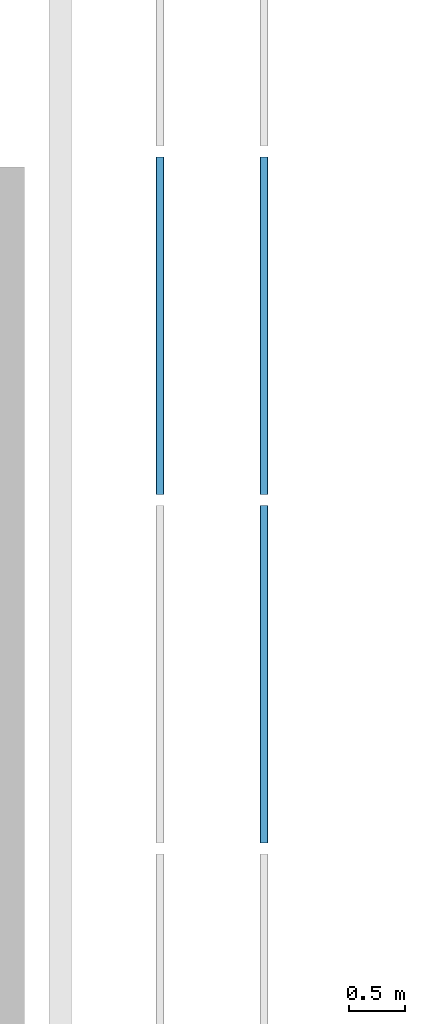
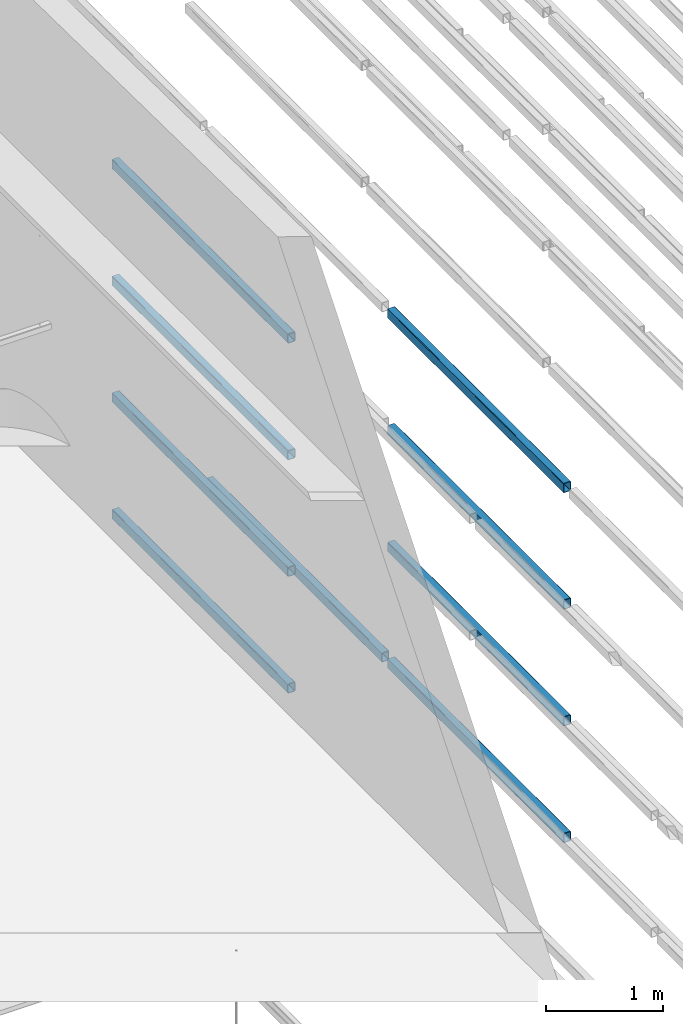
# One storey, part 13 of 290: 9 beams.
"""IFC2X3 building model written with IfcOpenShell, lengths in metres."""

from ifc_helpers import new_model, entity, si_unit, converted_unit, derived_unit, direction, frame, frame_2d, origin, place, context, subcontext, project, spatial, polyline, circle_curve, parameter, trimmed, segment, composite_curve, outline, extrude, material, type_object, element, save


model = new_model("IFC2X3")

# Units and contexts
model_context = context("Model", 3, precision=1e-05, world=origin(), true_north=direction((6.12303176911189e-17, 1.0)))
body_context = subcontext(model_context, "Body", "Model", "MODEL_VIEW")
ifc_project = project(units=[si_unit("LENGTHUNIT", "METRE"), si_unit("AREAUNIT", "SQUARE_METRE"), si_unit("VOLUMEUNIT", "CUBIC_METRE"), converted_unit("PLANEANGLEUNIT", "DEGREE", entity("IfcRatioMeasure", 0.0174532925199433), si_unit("PLANEANGLEUNIT", "RADIAN"), dimensions=[0, 0, 0, 0, 0, 0, 0]), si_unit("MASSUNIT", "GRAM", prefix="KILO"), derived_unit("MASSDENSITYUNIT", [(si_unit("MASSUNIT", "GRAM", prefix="KILO"), 1), (si_unit("LENGTHUNIT", "METRE"), -3)]), derived_unit("MOMENTOFINERTIAUNIT", [(si_unit("LENGTHUNIT", "METRE"), 4)]), si_unit("TIMEUNIT", "SECOND"), si_unit("FREQUENCYUNIT", "HERTZ"), si_unit("THERMODYNAMICTEMPERATUREUNIT", "DEGREE_CELSIUS"), derived_unit("THERMALTRANSMITTANCEUNIT", [(si_unit("MASSUNIT", "GRAM", prefix="KILO"), 1), (si_unit("THERMODYNAMICTEMPERATUREUNIT", "KELVIN"), -1), (si_unit("TIMEUNIT", "SECOND"), -3)]), derived_unit("VOLUMETRICFLOWRATEUNIT", [(si_unit("LENGTHUNIT", "METRE"), 3), (si_unit("TIMEUNIT", "SECOND"), -1)]), si_unit("ELECTRICCURRENTUNIT", "AMPERE"), si_unit("ELECTRICVOLTAGEUNIT", "VOLT"), si_unit("POWERUNIT", "WATT"), si_unit("FORCEUNIT", "NEWTON", prefix="KILO"), si_unit("ILLUMINANCEUNIT", "LUX"), si_unit("LUMINOUSFLUXUNIT", "LUMEN"), si_unit("LUMINOUSINTENSITYUNIT", "CANDELA"), derived_unit("USERDEFINED", [(si_unit("MASSUNIT", "GRAM", prefix="KILO"), -1), (si_unit("LENGTHUNIT", "METRE"), -2), (si_unit("TIMEUNIT", "SECOND"), 3), (si_unit("LUMINOUSFLUXUNIT", "LUMEN"), 1)]), derived_unit("LINEARVELOCITYUNIT", [(si_unit("LENGTHUNIT", "METRE"), 1), (si_unit("TIMEUNIT", "SECOND"), -1)]), si_unit("PRESSUREUNIT", "PASCAL"), derived_unit("USERDEFINED", [(si_unit("LENGTHUNIT", "METRE"), -2), (si_unit("MASSUNIT", "GRAM", prefix="KILO"), 1), (si_unit("TIMEUNIT", "SECOND"), -2)]), derived_unit("LINEARFORCEUNIT", [(si_unit("MASSUNIT", "GRAM", prefix="KILO"), 1), (si_unit("LENGTHUNIT", "METRE"), 1), (si_unit("TIMEUNIT", "SECOND"), -2), (si_unit("LENGTHUNIT", "METRE"), -1)]), derived_unit("PLANARFORCEUNIT", [(si_unit("MASSUNIT", "GRAM", prefix="KILO"), 1), (si_unit("LENGTHUNIT", "METRE"), 1), (si_unit("TIMEUNIT", "SECOND"), -2), (si_unit("LENGTHUNIT", "METRE"), -2)])], contexts=[model_context])

# Site, building, storey
site_placement = place(None, origin())
site = spatial("IfcSite", under=ifc_project, at=site_placement, Name="Default", CompositionType="ELEMENT")
building_placement = place(site_placement, origin())
building = spatial("IfcBuilding", under=site, at=building_placement, CompositionType="ELEMENT")
storey_placement = place(building_placement, frame((0.0, 0.0, 4.0)))
storey = spatial("IfcBuildingStorey", under=building, at=storey_placement, Name="01_OG", CompositionType="ELEMENT", Elevation=4.0)

# Beams
ifc_material = material(Name="Metall - Baustahl S235 blau")
beam_type = type_object("IfcBeamType", Name="RHS Träger (EN 10219-2):RHS 100 x 75 x 5", PredefinedType="NOTDEFINED")
beam_1_placement = place(storey_placement, frame((-205.565111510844, 39.548088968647, -1.2), z_axis=(0.0, 0.0, 1.0), x_axis=(0.0, 1.0, 0.0)))
element("IfcBeam", 1, at=beam_1_placement, inside=storey, type_object=beam_type, material=ifc_material, Name="RHS Träger (EN 10219-2):RHS 100 x 75 x 5", ObjectType="RHS Träger (EN 10219-2):RHS 100 x 75 x 5", context=body_context, shape_type="SweptSolid", body=[
    extrude(outline(composite_curve([segment(polyline([(-0.0400000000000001, -0.0374999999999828), (0.0400000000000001, -0.0374999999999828)]), True, "CONTINUOUS"), segment(trimmed(circle_curve(frame_2d((0.0400000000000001, -0.0274999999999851), x_axis=(0.0, 1.0)), 0.01), [parameter(180.0)], [parameter(270.0)], True, "PARAMETER"), True, "CONTINUOUS"), segment(polyline([(0.05, -0.0274999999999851), (0.05, 0.0274999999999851)]), True, "CONTINUOUS"), segment(trimmed(circle_curve(frame_2d((0.0400000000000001, 0.0274999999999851), x_axis=(0.0, 1.0)), 0.01), [parameter(270.0)], [parameter(4.07110999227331e-13)], True, "PARAMETER"), True, "CONTINUOUS"), segment(polyline([(0.0400000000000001, 0.0375000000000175), (-0.0400000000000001, 0.0375000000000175)]), True, "CONTINUOUS"), segment(trimmed(circle_curve(frame_2d((-0.0400000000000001, 0.0274999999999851), x_axis=(0.0, 1.0)), 0.01), [parameter(360.0)], [parameter(90.0000000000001)], True, "PARAMETER"), True, "CONTINUOUS"), segment(polyline([(-0.05, 0.0274999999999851), (-0.05, -0.0274999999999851)]), True, "CONTINUOUS"), segment(trimmed(circle_curve(frame_2d((-0.0400000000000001, -0.0274999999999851), x_axis=(0.0, 1.0)), 0.01), [parameter(90.0000000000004)], [parameter(180.0)], True, "PARAMETER"), True, "CONTINUOUS")], self_intersect=False), holes=[composite_curve([segment(trimmed(circle_curve(frame_2d((-0.0400000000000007, 0.0274999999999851), x_axis=(0.0, 1.0)), 0.005), [parameter(360.0)], [parameter(89.9999999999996)], True, "PARAMETER"), False, "CONTINUOUS"), segment(polyline([(-0.0400000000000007, 0.0325000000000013), (0.039999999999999, 0.0325000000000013)]), True, "CONTINUOUS"), segment(trimmed(circle_curve(frame_2d((0.039999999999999, 0.0274999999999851), x_axis=(0.0, 1.0)), 0.005), [parameter(270.0)], [parameter(0.0)], True, "PARAMETER"), False, "CONTINUOUS"), segment(polyline([(0.044999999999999, 0.0274999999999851), (0.044999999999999, -0.0274999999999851)]), True, "CONTINUOUS"), segment(trimmed(circle_curve(frame_2d((0.039999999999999, -0.0274999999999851), x_axis=(0.0, 1.0)), 0.005), [parameter(180.0)], [parameter(269.999999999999)], True, "PARAMETER"), False, "CONTINUOUS"), segment(polyline([(0.039999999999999, -0.0325000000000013), (-0.0400000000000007, -0.0325000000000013)]), True, "CONTINUOUS"), segment(trimmed(circle_curve(frame_2d((-0.0400000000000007, -0.0274999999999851), x_axis=(0.0, 1.0)), 0.005), [parameter(90.0000000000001)], [parameter(180.0)], True, "PARAMETER"), False, "CONTINUOUS"), segment(polyline([(-0.0450000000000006, -0.0274999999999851), (-0.0450000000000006, 0.0274999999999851)]), True, "CONTINUOUS")], self_intersect=False)]), frame((0.000100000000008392, -0.0375000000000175, -0.0500000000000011), z_axis=(1.0, 0.0, 0.0), x_axis=(0.0, 0.0, -1.0)), (0.0, 0.0, 1.0), 2.99979999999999),
])
beam_2_placement = place(storey_placement, frame((-205.565111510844, 39.548088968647, 0.0150000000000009), z_axis=(0.0, 0.0, 1.0), x_axis=(0.0, 1.0, 0.0)))
element("IfcBeam", 2, at=beam_2_placement, inside=storey, type_object=beam_type, material=ifc_material, Name="RHS Träger (EN 10219-2):RHS 100 x 75 x 5", ObjectType="RHS Träger (EN 10219-2):RHS 100 x 75 x 5", context=body_context, shape_type="SweptSolid", body=[
    extrude(outline(composite_curve([segment(polyline([(-0.0400000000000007, -0.0374999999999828), (0.0399999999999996, -0.0374999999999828)]), True, "CONTINUOUS"), segment(trimmed(circle_curve(frame_2d((0.0399999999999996, -0.0274999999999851), x_axis=(0.0, 1.0)), 0.01), [parameter(180.0)], [parameter(270.0)], True, "PARAMETER"), True, "CONTINUOUS"), segment(polyline([(0.0499999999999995, -0.0274999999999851), (0.0499999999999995, 0.0274999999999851)]), True, "CONTINUOUS"), segment(trimmed(circle_curve(frame_2d((0.0399999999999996, 0.0274999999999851), x_axis=(0.0, 1.0)), 0.01), [parameter(270.0)], [parameter(4.07110999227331e-13)], True, "PARAMETER"), True, "CONTINUOUS"), segment(polyline([(0.0399999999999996, 0.0375000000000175), (-0.0400000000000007, 0.0375000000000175)]), True, "CONTINUOUS"), segment(trimmed(circle_curve(frame_2d((-0.0400000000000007, 0.0274999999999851), x_axis=(0.0, 1.0)), 0.01), [parameter(360.0)], [parameter(90.0000000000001)], True, "PARAMETER"), True, "CONTINUOUS"), segment(polyline([(-0.0500000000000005, 0.0274999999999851), (-0.0500000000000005, -0.0274999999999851)]), True, "CONTINUOUS"), segment(trimmed(circle_curve(frame_2d((-0.0400000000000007, -0.0274999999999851), x_axis=(0.0, 1.0)), 0.01), [parameter(90.0000000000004)], [parameter(180.0)], True, "PARAMETER"), True, "CONTINUOUS")], self_intersect=False), holes=[composite_curve([segment(trimmed(circle_curve(frame_2d((-0.0400000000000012, 0.0274999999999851), x_axis=(0.0, 1.0)), 0.005), [parameter(360.0)], [parameter(89.9999999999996)], True, "PARAMETER"), False, "CONTINUOUS"), segment(polyline([(-0.0400000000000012, 0.0325000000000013), (0.0399999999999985, 0.0325000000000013)]), True, "CONTINUOUS"), segment(trimmed(circle_curve(frame_2d((0.0399999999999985, 0.0274999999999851), x_axis=(0.0, 1.0)), 0.005), [parameter(270.0)], [parameter(0.0)], True, "PARAMETER"), False, "CONTINUOUS"), segment(polyline([(0.0449999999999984, 0.0274999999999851), (0.0449999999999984, -0.0274999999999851)]), True, "CONTINUOUS"), segment(trimmed(circle_curve(frame_2d((0.0399999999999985, -0.0274999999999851), x_axis=(0.0, 1.0)), 0.005), [parameter(180.0)], [parameter(269.999999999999)], True, "PARAMETER"), False, "CONTINUOUS"), segment(polyline([(0.0399999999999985, -0.0325000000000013), (-0.0400000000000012, -0.0325000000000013)]), True, "CONTINUOUS"), segment(trimmed(circle_curve(frame_2d((-0.0400000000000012, -0.0274999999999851), x_axis=(0.0, 1.0)), 0.005), [parameter(90.0000000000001)], [parameter(180.0)], True, "PARAMETER"), False, "CONTINUOUS"), segment(polyline([(-0.0450000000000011, -0.0274999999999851), (-0.0450000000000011, 0.0274999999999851)]), True, "CONTINUOUS")], self_intersect=False)]), frame((0.000100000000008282, -0.0375000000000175, -0.0500000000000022), z_axis=(1.0, 0.0, 0.0), x_axis=(0.0, 0.0, -1.0)), (0.0, 0.0, 1.0), 2.99979999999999),
])
beam_3_placement = place(storey_placement, frame((-205.565111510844, 39.548088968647, 1.23), z_axis=(0.0, 0.0, 1.0), x_axis=(0.0, 1.0, 0.0)))
element("IfcBeam", 3, at=beam_3_placement, inside=storey, type_object=beam_type, material=ifc_material, Name="RHS Träger (EN 10219-2):RHS 100 x 75 x 5", ObjectType="RHS Träger (EN 10219-2):RHS 100 x 75 x 5", context=body_context, shape_type="SweptSolid", body=[
    extrude(outline(composite_curve([segment(polyline([(-0.0399999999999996, -0.0374999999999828), (0.0399999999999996, -0.0374999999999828)]), True, "CONTINUOUS"), segment(trimmed(circle_curve(frame_2d((0.0399999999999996, -0.0274999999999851), x_axis=(0.0, 1.0)), 0.01), [parameter(180.0)], [parameter(270.0)], True, "PARAMETER"), True, "CONTINUOUS"), segment(polyline([(0.0500000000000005, -0.0274999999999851), (0.0500000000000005, 0.0274999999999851)]), True, "CONTINUOUS"), segment(trimmed(circle_curve(frame_2d((0.0399999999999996, 0.0274999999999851), x_axis=(0.0, 1.0)), 0.01), [parameter(270.0)], [parameter(4.07110999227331e-13)], True, "PARAMETER"), True, "CONTINUOUS"), segment(polyline([(0.0399999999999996, 0.0375000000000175), (-0.0399999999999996, 0.0375000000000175)]), True, "CONTINUOUS"), segment(trimmed(circle_curve(frame_2d((-0.0399999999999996, 0.0274999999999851), x_axis=(0.0, 1.0)), 0.01), [parameter(360.0)], [parameter(90.0000000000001)], True, "PARAMETER"), True, "CONTINUOUS"), segment(polyline([(-0.0499999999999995, 0.0274999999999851), (-0.0499999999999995, -0.0274999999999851)]), True, "CONTINUOUS"), segment(trimmed(circle_curve(frame_2d((-0.0399999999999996, -0.0274999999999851), x_axis=(0.0, 1.0)), 0.01), [parameter(90.0000000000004)], [parameter(180.0)], True, "PARAMETER"), True, "CONTINUOUS")], self_intersect=False), holes=[composite_curve([segment(trimmed(circle_curve(frame_2d((-0.0400000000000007, 0.0274999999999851), x_axis=(0.0, 1.0)), 0.005), [parameter(360.0)], [parameter(89.9999999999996)], True, "PARAMETER"), False, "CONTINUOUS"), segment(polyline([(-0.0400000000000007, 0.0325000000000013), (0.0399999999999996, 0.0325000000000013)]), True, "CONTINUOUS"), segment(trimmed(circle_curve(frame_2d((0.0399999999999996, 0.0274999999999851), x_axis=(0.0, 1.0)), 0.005), [parameter(270.0)], [parameter(0.0)], True, "PARAMETER"), False, "CONTINUOUS"), segment(polyline([(0.0449999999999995, 0.0274999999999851), (0.0449999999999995, -0.0274999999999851)]), True, "CONTINUOUS"), segment(trimmed(circle_curve(frame_2d((0.0399999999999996, -0.0274999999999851), x_axis=(0.0, 1.0)), 0.005), [parameter(180.0)], [parameter(269.999999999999)], True, "PARAMETER"), False, "CONTINUOUS"), segment(polyline([(0.0399999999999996, -0.0325000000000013), (-0.0400000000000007, -0.0325000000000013)]), True, "CONTINUOUS"), segment(trimmed(circle_curve(frame_2d((-0.0400000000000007, -0.0274999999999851), x_axis=(0.0, 1.0)), 0.005), [parameter(90.0000000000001)], [parameter(180.0)], True, "PARAMETER"), False, "CONTINUOUS"), segment(polyline([(-0.0450000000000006, -0.0274999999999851), (-0.0450000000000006, 0.0274999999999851)]), True, "CONTINUOUS")], self_intersect=False)]), frame((0.000100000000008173, -0.0375000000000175, -0.0500000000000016), z_axis=(1.0, 0.0, 0.0), x_axis=(0.0, 0.0, -1.0)), (0.0, 0.0, 1.0), 2.99979999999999),
])
beam_4_placement = place(storey_placement, frame((-205.565111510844, 39.548088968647, 2.445), z_axis=(0.0, 0.0, 1.0), x_axis=(0.0, 1.0, 0.0)))
element("IfcBeam", 4, at=beam_4_placement, inside=storey, type_object=beam_type, material=ifc_material, Name="RHS Träger (EN 10219-2):RHS 100 x 75 x 5", ObjectType="RHS Träger (EN 10219-2):RHS 100 x 75 x 5", context=body_context, shape_type="SweptSolid", body=[
    extrude(outline(composite_curve([segment(polyline([(-0.0399999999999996, -0.0374999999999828), (0.0399999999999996, -0.0374999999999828)]), True, "CONTINUOUS"), segment(trimmed(circle_curve(frame_2d((0.0399999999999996, -0.0274999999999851), x_axis=(0.0, 1.0)), 0.01), [parameter(180.0)], [parameter(270.0)], True, "PARAMETER"), True, "CONTINUOUS"), segment(polyline([(0.0500000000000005, -0.0274999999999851), (0.0500000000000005, 0.0274999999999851)]), True, "CONTINUOUS"), segment(trimmed(circle_curve(frame_2d((0.0399999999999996, 0.0274999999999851), x_axis=(0.0, 1.0)), 0.01), [parameter(270.0)], [parameter(4.07110999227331e-13)], True, "PARAMETER"), True, "CONTINUOUS"), segment(polyline([(0.0399999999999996, 0.0375000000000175), (-0.0399999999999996, 0.0375000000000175)]), True, "CONTINUOUS"), segment(trimmed(circle_curve(frame_2d((-0.0399999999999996, 0.0274999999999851), x_axis=(0.0, 1.0)), 0.01), [parameter(360.0)], [parameter(90.0000000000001)], True, "PARAMETER"), True, "CONTINUOUS"), segment(polyline([(-0.0499999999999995, 0.0274999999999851), (-0.0499999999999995, -0.0274999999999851)]), True, "CONTINUOUS"), segment(trimmed(circle_curve(frame_2d((-0.0399999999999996, -0.0274999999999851), x_axis=(0.0, 1.0)), 0.01), [parameter(90.0000000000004)], [parameter(180.0)], True, "PARAMETER"), True, "CONTINUOUS")], self_intersect=False), holes=[composite_curve([segment(trimmed(circle_curve(frame_2d((-0.0400000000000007, 0.0274999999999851), x_axis=(0.0, 1.0)), 0.005), [parameter(360.0)], [parameter(89.9999999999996)], True, "PARAMETER"), False, "CONTINUOUS"), segment(polyline([(-0.0400000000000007, 0.0325000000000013), (0.0399999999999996, 0.0325000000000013)]), True, "CONTINUOUS"), segment(trimmed(circle_curve(frame_2d((0.0399999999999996, 0.0274999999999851), x_axis=(0.0, 1.0)), 0.005), [parameter(270.0)], [parameter(0.0)], True, "PARAMETER"), False, "CONTINUOUS"), segment(polyline([(0.0449999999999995, 0.0274999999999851), (0.0449999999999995, -0.0274999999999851)]), True, "CONTINUOUS"), segment(trimmed(circle_curve(frame_2d((0.0399999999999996, -0.0274999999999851), x_axis=(0.0, 1.0)), 0.005), [parameter(180.0)], [parameter(269.999999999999)], True, "PARAMETER"), False, "CONTINUOUS"), segment(polyline([(0.0399999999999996, -0.0325000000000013), (-0.0400000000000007, -0.0325000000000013)]), True, "CONTINUOUS"), segment(trimmed(circle_curve(frame_2d((-0.0400000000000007, -0.0274999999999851), x_axis=(0.0, 1.0)), 0.005), [parameter(90.0000000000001)], [parameter(180.0)], True, "PARAMETER"), False, "CONTINUOUS"), segment(polyline([(-0.0450000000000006, -0.0274999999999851), (-0.0450000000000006, 0.0274999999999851)]), True, "CONTINUOUS")], self_intersect=False)]), frame((0.000100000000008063, -0.0375000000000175, -0.0500000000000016), z_axis=(1.0, 0.0, 0.0), x_axis=(0.0, 0.0, -1.0)), (0.0, 0.0, 1.0), 2.99979999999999),
])
beam_5_placement = place(storey_placement, frame((-206.415111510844, 42.648088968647, -1.2), z_axis=(0.0, 0.0, 1.0), x_axis=(0.0, 1.0, 0.0)))
element("IfcBeam", 5, at=beam_5_placement, inside=storey, type_object=beam_type, material=ifc_material, Name="RHS Träger (EN 10219-2):RHS 100 x 75 x 5", ObjectType="RHS Träger (EN 10219-2):RHS 100 x 75 x 5", context=body_context, shape_type="SweptSolid", body=[
    extrude(outline(composite_curve([segment(trimmed(circle_curve(frame_2d((-0.0274999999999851, -0.0400000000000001), x_axis=(1.0, 0.0)), 0.01), [parameter(180.0)], [parameter(270.0)], True, "PARAMETER"), True, "CONTINUOUS"), segment(polyline([(-0.0274999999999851, -0.05), (0.0274999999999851, -0.05)]), True, "CONTINUOUS"), segment(trimmed(circle_curve(frame_2d((0.0274999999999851, -0.0400000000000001), x_axis=(1.0, 0.0)), 0.01), [parameter(270.0)], [parameter(5.08888749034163e-14)], True, "PARAMETER"), True, "CONTINUOUS"), segment(polyline([(0.0375000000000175, -0.0400000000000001), (0.0375000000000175, 0.0400000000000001)]), True, "CONTINUOUS"), segment(trimmed(circle_curve(frame_2d((0.0274999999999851, 0.0400000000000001), x_axis=(1.0, 0.0)), 0.01), [parameter(360.0)], [parameter(89.9999999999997)], True, "PARAMETER"), True, "CONTINUOUS"), segment(polyline([(0.0274999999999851, 0.05), (-0.0274999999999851, 0.05)]), True, "CONTINUOUS"), segment(trimmed(circle_curve(frame_2d((-0.0274999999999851, 0.0400000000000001), x_axis=(1.0, 0.0)), 0.01), [parameter(90.0000000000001)], [parameter(180.0)], True, "PARAMETER"), True, "CONTINUOUS"), segment(polyline([(-0.0374999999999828, 0.0400000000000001), (-0.0374999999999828, -0.0400000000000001)]), True, "CONTINUOUS")], self_intersect=False), holes=[composite_curve([segment(polyline([(0.0274999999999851, -0.0450000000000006), (-0.0274999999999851, -0.0450000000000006)]), True, "CONTINUOUS"), segment(trimmed(circle_curve(frame_2d((-0.0274999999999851, -0.0400000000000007), x_axis=(1.0, 0.0)), 0.005), [parameter(180.0)], [parameter(270.0)], True, "PARAMETER"), False, "CONTINUOUS"), segment(polyline([(-0.0325000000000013, -0.0400000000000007), (-0.0325000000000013, 0.039999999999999)]), True, "CONTINUOUS"), segment(trimmed(circle_curve(frame_2d((-0.0274999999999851, 0.039999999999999), x_axis=(1.0, 0.0)), 0.005), [parameter(90.0000000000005)], [parameter(180.0)], True, "PARAMETER"), False, "CONTINUOUS"), segment(polyline([(-0.0274999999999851, 0.044999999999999), (0.0274999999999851, 0.044999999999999)]), True, "CONTINUOUS"), segment(trimmed(circle_curve(frame_2d((0.0274999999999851, 0.039999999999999), x_axis=(1.0, 0.0)), 0.005), [parameter(0.0)], [parameter(90.0000000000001)], True, "PARAMETER"), False, "CONTINUOUS"), segment(polyline([(0.0325000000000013, 0.039999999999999), (0.0325000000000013, -0.0400000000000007)]), True, "CONTINUOUS"), segment(trimmed(circle_curve(frame_2d((0.0274999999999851, -0.0400000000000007), x_axis=(1.0, 0.0)), 0.005), [parameter(270.0)], [parameter(4.07110999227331e-13)], True, "PARAMETER"), False, "CONTINUOUS")], self_intersect=False)]), frame((9.99999999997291e-05, 0.0375000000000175, -0.0500000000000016), z_axis=(1.0, 0.0, 0.0), x_axis=(0.0, -1.0, 0.0)), (0.0, 0.0, 1.0), 2.99979999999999),
])
beam_6_placement = place(storey_placement, frame((-206.415111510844, 42.648088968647, 0.0150000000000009), z_axis=(0.0, 0.0, 1.0), x_axis=(0.0, 1.0, 0.0)))
element("IfcBeam", 6, at=beam_6_placement, inside=storey, type_object=beam_type, material=ifc_material, Name="RHS Träger (EN 10219-2):RHS 100 x 75 x 5", ObjectType="RHS Träger (EN 10219-2):RHS 100 x 75 x 5", context=body_context, shape_type="SweptSolid", body=[
    extrude(outline(composite_curve([segment(trimmed(circle_curve(frame_2d((-0.0274999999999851, -0.0400000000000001), x_axis=(1.0, 0.0)), 0.01), [parameter(180.0)], [parameter(270.0)], True, "PARAMETER"), True, "CONTINUOUS"), segment(polyline([(-0.0274999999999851, -0.05), (0.0274999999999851, -0.05)]), True, "CONTINUOUS"), segment(trimmed(circle_curve(frame_2d((0.0274999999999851, -0.0400000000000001), x_axis=(1.0, 0.0)), 0.01), [parameter(270.0)], [parameter(5.08888749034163e-14)], True, "PARAMETER"), True, "CONTINUOUS"), segment(polyline([(0.0375000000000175, -0.0400000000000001), (0.0375000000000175, 0.0400000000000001)]), True, "CONTINUOUS"), segment(trimmed(circle_curve(frame_2d((0.0274999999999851, 0.0400000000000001), x_axis=(1.0, 0.0)), 0.01), [parameter(360.0)], [parameter(89.9999999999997)], True, "PARAMETER"), True, "CONTINUOUS"), segment(polyline([(0.0274999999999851, 0.05), (-0.0274999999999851, 0.05)]), True, "CONTINUOUS"), segment(trimmed(circle_curve(frame_2d((-0.0274999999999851, 0.0400000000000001), x_axis=(1.0, 0.0)), 0.01), [parameter(90.0000000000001)], [parameter(180.0)], True, "PARAMETER"), True, "CONTINUOUS"), segment(polyline([(-0.0374999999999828, 0.0400000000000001), (-0.0374999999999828, -0.0400000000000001)]), True, "CONTINUOUS")], self_intersect=False), holes=[composite_curve([segment(polyline([(0.0274999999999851, -0.0450000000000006), (-0.0274999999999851, -0.0450000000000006)]), True, "CONTINUOUS"), segment(trimmed(circle_curve(frame_2d((-0.0274999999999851, -0.0400000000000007), x_axis=(1.0, 0.0)), 0.005), [parameter(180.0)], [parameter(270.0)], True, "PARAMETER"), False, "CONTINUOUS"), segment(polyline([(-0.0325000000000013, -0.0400000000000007), (-0.0325000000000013, 0.039999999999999)]), True, "CONTINUOUS"), segment(trimmed(circle_curve(frame_2d((-0.0274999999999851, 0.039999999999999), x_axis=(1.0, 0.0)), 0.005), [parameter(90.0000000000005)], [parameter(180.0)], True, "PARAMETER"), False, "CONTINUOUS"), segment(polyline([(-0.0274999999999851, 0.044999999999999), (0.0274999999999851, 0.044999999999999)]), True, "CONTINUOUS"), segment(trimmed(circle_curve(frame_2d((0.0274999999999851, 0.039999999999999), x_axis=(1.0, 0.0)), 0.005), [parameter(0.0)], [parameter(90.0000000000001)], True, "PARAMETER"), False, "CONTINUOUS"), segment(polyline([(0.0325000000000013, 0.039999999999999), (0.0325000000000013, -0.0400000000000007)]), True, "CONTINUOUS"), segment(trimmed(circle_curve(frame_2d((0.0274999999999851, -0.0400000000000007), x_axis=(1.0, 0.0)), 0.005), [parameter(270.0)], [parameter(4.07110999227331e-13)], True, "PARAMETER"), False, "CONTINUOUS")], self_intersect=False)]), frame((9.99999999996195e-05, 0.0375000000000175, -0.0500000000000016), z_axis=(1.0, 0.0, 0.0), x_axis=(0.0, -1.0, 0.0)), (0.0, 0.0, 1.0), 2.99979999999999),
])
beam_7_placement = place(storey_placement, frame((-206.415111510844, 42.648088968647, 1.23), z_axis=(0.0, 0.0, 1.0), x_axis=(0.0, 1.0, 0.0)))
element("IfcBeam", 7, at=beam_7_placement, inside=storey, type_object=beam_type, material=ifc_material, Name="RHS Träger (EN 10219-2):RHS 100 x 75 x 5", ObjectType="RHS Träger (EN 10219-2):RHS 100 x 75 x 5", context=body_context, shape_type="SweptSolid", body=[
    extrude(outline(composite_curve([segment(trimmed(circle_curve(frame_2d((-0.0274999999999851, -0.0399999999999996), x_axis=(1.0, 0.0)), 0.01), [parameter(180.0)], [parameter(270.0)], True, "PARAMETER"), True, "CONTINUOUS"), segment(polyline([(-0.0274999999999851, -0.0499999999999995), (0.0274999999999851, -0.0499999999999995)]), True, "CONTINUOUS"), segment(trimmed(circle_curve(frame_2d((0.0274999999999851, -0.0399999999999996), x_axis=(1.0, 0.0)), 0.01), [parameter(270.0)], [parameter(5.08888749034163e-14)], True, "PARAMETER"), True, "CONTINUOUS"), segment(polyline([(0.0375000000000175, -0.0399999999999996), (0.0375000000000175, 0.0399999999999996)]), True, "CONTINUOUS"), segment(trimmed(circle_curve(frame_2d((0.0274999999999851, 0.0399999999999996), x_axis=(1.0, 0.0)), 0.01), [parameter(360.0)], [parameter(89.9999999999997)], True, "PARAMETER"), True, "CONTINUOUS"), segment(polyline([(0.0274999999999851, 0.0500000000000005), (-0.0274999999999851, 0.0500000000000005)]), True, "CONTINUOUS"), segment(trimmed(circle_curve(frame_2d((-0.0274999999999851, 0.0399999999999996), x_axis=(1.0, 0.0)), 0.01), [parameter(90.0000000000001)], [parameter(180.0)], True, "PARAMETER"), True, "CONTINUOUS"), segment(polyline([(-0.0374999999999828, 0.0399999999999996), (-0.0374999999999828, -0.0399999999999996)]), True, "CONTINUOUS")], self_intersect=False), holes=[composite_curve([segment(polyline([(0.0274999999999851, -0.0450000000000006), (-0.0274999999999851, -0.0450000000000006)]), True, "CONTINUOUS"), segment(trimmed(circle_curve(frame_2d((-0.0274999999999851, -0.0400000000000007), x_axis=(1.0, 0.0)), 0.005), [parameter(180.0)], [parameter(270.0)], True, "PARAMETER"), False, "CONTINUOUS"), segment(polyline([(-0.0325000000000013, -0.0400000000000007), (-0.0325000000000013, 0.0399999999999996)]), True, "CONTINUOUS"), segment(trimmed(circle_curve(frame_2d((-0.0274999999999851, 0.0399999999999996), x_axis=(1.0, 0.0)), 0.005), [parameter(90.0000000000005)], [parameter(180.0)], True, "PARAMETER"), False, "CONTINUOUS"), segment(polyline([(-0.0274999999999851, 0.0449999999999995), (0.0274999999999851, 0.0449999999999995)]), True, "CONTINUOUS"), segment(trimmed(circle_curve(frame_2d((0.0274999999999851, 0.0399999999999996), x_axis=(1.0, 0.0)), 0.005), [parameter(0.0)], [parameter(90.0000000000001)], True, "PARAMETER"), False, "CONTINUOUS"), segment(polyline([(0.0325000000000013, 0.0399999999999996), (0.0325000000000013, -0.0400000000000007)]), True, "CONTINUOUS"), segment(trimmed(circle_curve(frame_2d((0.0274999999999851, -0.0400000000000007), x_axis=(1.0, 0.0)), 0.005), [parameter(270.0)], [parameter(4.07110999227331e-13)], True, "PARAMETER"), False, "CONTINUOUS")], self_intersect=False)]), frame((9.99999999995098e-05, 0.0375000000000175, -0.0500000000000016), z_axis=(1.0, 0.0, 0.0), x_axis=(0.0, -1.0, 0.0)), (0.0, 0.0, 1.0), 2.99979999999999),
])
beam_8_placement = place(storey_placement, frame((-206.415111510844, 42.648088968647, 2.445), z_axis=(0.0, 0.0, 1.0), x_axis=(0.0, 1.0, 0.0)))
element("IfcBeam", 8, at=beam_8_placement, inside=storey, type_object=beam_type, material=ifc_material, Name="RHS Träger (EN 10219-2):RHS 100 x 75 x 5", ObjectType="RHS Träger (EN 10219-2):RHS 100 x 75 x 5", context=body_context, shape_type="SweptSolid", body=[
    extrude(outline(composite_curve([segment(trimmed(circle_curve(frame_2d((-0.0274999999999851, -0.0399999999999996), x_axis=(1.0, 0.0)), 0.01), [parameter(180.0)], [parameter(270.0)], True, "PARAMETER"), True, "CONTINUOUS"), segment(polyline([(-0.0274999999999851, -0.0499999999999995), (0.0274999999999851, -0.0499999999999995)]), True, "CONTINUOUS"), segment(trimmed(circle_curve(frame_2d((0.0274999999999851, -0.0399999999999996), x_axis=(1.0, 0.0)), 0.01), [parameter(270.0)], [parameter(5.08888749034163e-14)], True, "PARAMETER"), True, "CONTINUOUS"), segment(polyline([(0.0375000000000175, -0.0399999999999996), (0.0375000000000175, 0.0399999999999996)]), True, "CONTINUOUS"), segment(trimmed(circle_curve(frame_2d((0.0274999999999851, 0.0399999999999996), x_axis=(1.0, 0.0)), 0.01), [parameter(360.0)], [parameter(89.9999999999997)], True, "PARAMETER"), True, "CONTINUOUS"), segment(polyline([(0.0274999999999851, 0.0500000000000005), (-0.0274999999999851, 0.0500000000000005)]), True, "CONTINUOUS"), segment(trimmed(circle_curve(frame_2d((-0.0274999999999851, 0.0399999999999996), x_axis=(1.0, 0.0)), 0.01), [parameter(90.0000000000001)], [parameter(180.0)], True, "PARAMETER"), True, "CONTINUOUS"), segment(polyline([(-0.0374999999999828, 0.0399999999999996), (-0.0374999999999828, -0.0399999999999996)]), True, "CONTINUOUS")], self_intersect=False), holes=[composite_curve([segment(polyline([(0.0274999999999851, -0.0450000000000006), (-0.0274999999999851, -0.0450000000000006)]), True, "CONTINUOUS"), segment(trimmed(circle_curve(frame_2d((-0.0274999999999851, -0.0400000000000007), x_axis=(1.0, 0.0)), 0.005), [parameter(180.0)], [parameter(270.0)], True, "PARAMETER"), False, "CONTINUOUS"), segment(polyline([(-0.0325000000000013, -0.0400000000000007), (-0.0325000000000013, 0.0399999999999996)]), True, "CONTINUOUS"), segment(trimmed(circle_curve(frame_2d((-0.0274999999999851, 0.0399999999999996), x_axis=(1.0, 0.0)), 0.005), [parameter(90.0000000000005)], [parameter(180.0)], True, "PARAMETER"), False, "CONTINUOUS"), segment(polyline([(-0.0274999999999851, 0.0449999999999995), (0.0274999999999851, 0.0449999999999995)]), True, "CONTINUOUS"), segment(trimmed(circle_curve(frame_2d((0.0274999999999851, 0.0399999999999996), x_axis=(1.0, 0.0)), 0.005), [parameter(0.0)], [parameter(90.0000000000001)], True, "PARAMETER"), False, "CONTINUOUS"), segment(polyline([(0.0325000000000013, 0.0399999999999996), (0.0325000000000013, -0.0400000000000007)]), True, "CONTINUOUS"), segment(trimmed(circle_curve(frame_2d((0.0274999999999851, -0.0400000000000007), x_axis=(1.0, 0.0)), 0.005), [parameter(270.0)], [parameter(4.07110999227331e-13)], True, "PARAMETER"), False, "CONTINUOUS")], self_intersect=False)]), frame((9.99999999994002e-05, 0.0375000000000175, -0.0500000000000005), z_axis=(1.0, 0.0, 0.0), x_axis=(0.0, -1.0, 0.0)), (0.0, 0.0, 1.0), 2.99979999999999),
])
beam_9_placement = place(storey_placement, frame((-205.565111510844, 42.648088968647, -1.2), z_axis=(0.0, 0.0, 1.0), x_axis=(0.0, 1.0, 0.0)))
element("IfcBeam", 9, at=beam_9_placement, inside=storey, type_object=beam_type, material=ifc_material, Name="RHS Träger (EN 10219-2):RHS 100 x 75 x 5", ObjectType="RHS Träger (EN 10219-2):RHS 100 x 75 x 5", context=body_context, shape_type="SweptSolid", body=[
    extrude(outline(composite_curve([segment(polyline([(-0.0400000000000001, -0.0374999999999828), (0.0400000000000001, -0.0374999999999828)]), True, "CONTINUOUS"), segment(trimmed(circle_curve(frame_2d((0.0400000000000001, -0.0274999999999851), x_axis=(0.0, 1.0)), 0.01), [parameter(180.0)], [parameter(270.0)], True, "PARAMETER"), True, "CONTINUOUS"), segment(polyline([(0.05, -0.0274999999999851), (0.05, 0.0274999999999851)]), True, "CONTINUOUS"), segment(trimmed(circle_curve(frame_2d((0.0400000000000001, 0.0274999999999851), x_axis=(0.0, 1.0)), 0.01), [parameter(270.0)], [parameter(4.07110999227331e-13)], True, "PARAMETER"), True, "CONTINUOUS"), segment(polyline([(0.0400000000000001, 0.0375000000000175), (-0.0400000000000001, 0.0375000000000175)]), True, "CONTINUOUS"), segment(trimmed(circle_curve(frame_2d((-0.0400000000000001, 0.0274999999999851), x_axis=(0.0, 1.0)), 0.01), [parameter(360.0)], [parameter(90.0000000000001)], True, "PARAMETER"), True, "CONTINUOUS"), segment(polyline([(-0.05, 0.0274999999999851), (-0.05, -0.0274999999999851)]), True, "CONTINUOUS"), segment(trimmed(circle_curve(frame_2d((-0.0400000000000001, -0.0274999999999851), x_axis=(0.0, 1.0)), 0.01), [parameter(90.0000000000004)], [parameter(180.0)], True, "PARAMETER"), True, "CONTINUOUS")], self_intersect=False), holes=[composite_curve([segment(trimmed(circle_curve(frame_2d((-0.0400000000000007, 0.0274999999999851), x_axis=(0.0, 1.0)), 0.005), [parameter(360.0)], [parameter(89.9999999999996)], True, "PARAMETER"), False, "CONTINUOUS"), segment(polyline([(-0.0400000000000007, 0.0325000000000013), (0.039999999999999, 0.0325000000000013)]), True, "CONTINUOUS"), segment(trimmed(circle_curve(frame_2d((0.039999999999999, 0.0274999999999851), x_axis=(0.0, 1.0)), 0.005), [parameter(270.0)], [parameter(0.0)], True, "PARAMETER"), False, "CONTINUOUS"), segment(polyline([(0.044999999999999, 0.0274999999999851), (0.044999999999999, -0.0274999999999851)]), True, "CONTINUOUS"), segment(trimmed(circle_curve(frame_2d((0.039999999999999, -0.0274999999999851), x_axis=(0.0, 1.0)), 0.005), [parameter(180.0)], [parameter(269.999999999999)], True, "PARAMETER"), False, "CONTINUOUS"), segment(polyline([(0.039999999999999, -0.0325000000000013), (-0.0400000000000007, -0.0325000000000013)]), True, "CONTINUOUS"), segment(trimmed(circle_curve(frame_2d((-0.0400000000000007, -0.0274999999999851), x_axis=(0.0, 1.0)), 0.005), [parameter(90.0000000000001)], [parameter(180.0)], True, "PARAMETER"), False, "CONTINUOUS"), segment(polyline([(-0.0450000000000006, -0.0274999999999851), (-0.0450000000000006, 0.0274999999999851)]), True, "CONTINUOUS")], self_intersect=False)]), frame((0.000100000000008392, -0.0375000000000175, -0.0500000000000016), z_axis=(1.0, 0.0, 0.0), x_axis=(0.0, 0.0, -1.0)), (0.0, 0.0, 1.0), 2.99979999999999),
])

save(model, "model.ifc")
